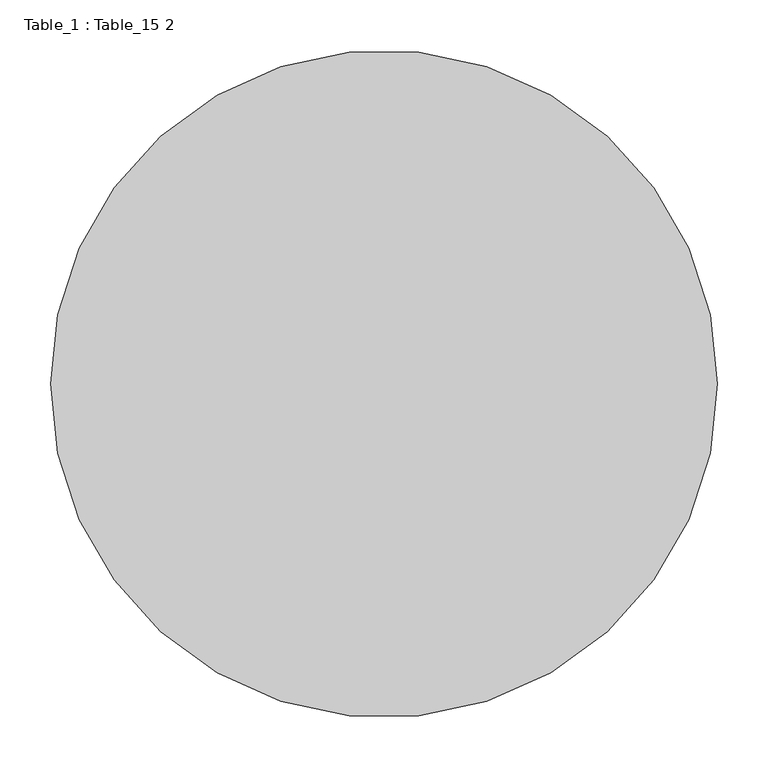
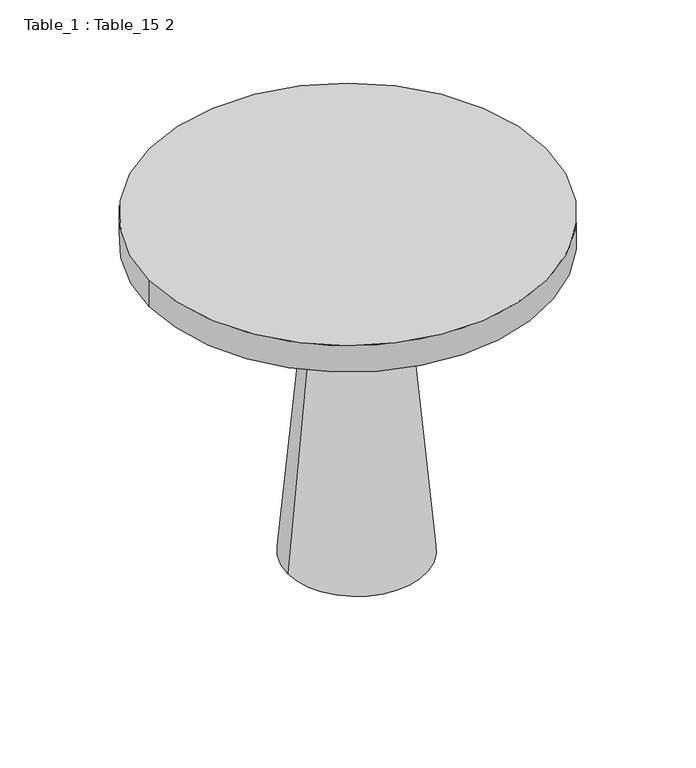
"""IFC4 building model written with IfcOpenShell, lengths in millimetres: furniture geometry, Table_1 : Table_15 2."""

from ifc_helpers import new_model, si_unit, point, frame, origin, origin_2d, place, context, project, spatial, polyline, circle_curve, trimmed, segment, composite_curve, outline, extrude, source, transform, mapped, element, save
from ifc_brep_helpers import plane_surface, revolved_surface, advanced_brep


def table_1_table_15_2_961d6f65(model_context):
    return source(origin(), model_context, "Body", "SolidModel", [
        advanced_brep(
        [(-100.3808299, 0.0, 0.0), (129.6191701, 0.0, 0.0), (-50.3808299, 0.0, 550.0), (79.6191701, 0.0, 550.0)],
        [
            (0, 1, circle_curve(frame((14.6191701, 0.0, 0.0), z_axis=(0.0, 0.0, -1.0), x_axis=(-1.0, 0.0, 0.0)), 115.0)),
            (1, 0, circle_curve(frame((14.6191701, 0.0, 0.0), z_axis=(0.0, 0.0, -1.0), x_axis=(1.0, 0.0, 0.0)), 115.0)),
            (2, 3, circle_curve(frame((14.6191701, 0.0, 550.0), z_axis=(0.0, 0.0, 1.0), x_axis=(1.0, 0.0, 0.0)), 65.0)),
            (3, 2, circle_curve(frame((14.6191701, 0.0, 550.0), z_axis=(0.0, 0.0, 1.0), x_axis=(-1.0, 0.0, 0.0)), 65.0)),
            (3, 1),
            (0, 2),
        ],
        [
            plane_surface(frame((14.6191701, 0.0, 0.0), z_axis=(0.0, 0.0, -1.0), x_axis=(0.0, 1.0, 0.0))),
            plane_surface(frame((14.6191701, 0.0, 550.0), z_axis=(0.0, 0.0, 1.0), x_axis=(0.0, 1.0, 0.0))),
            revolved_surface(polyline([(79.61917009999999, 0.0, 550.0), (129.6191701, 0.0, 0.0)]), (14.6191701, 0.0, 1265.0), (0.0, 0.0, -1.0)),
            revolved_surface(polyline([(-50.3808299, 0.0, 550.0), (-100.3808299, 0.0, 0.0)]), (14.6191701, 0.0, 1265.0), (0.0, 0.0, -1.0)),
        ],
        [
            (0, [[1, 2]]),
            (1, [[3, 4]]),
            (2, [[-4, 5, -1, 6]]),
            (3, [[-3, -6, -2, -5]]),
        ],
    ),
        extrude(outline(composite_curve([segment(trimmed(circle_curve(origin_2d(), 330.0), [point((-330.0, 0.0))], [point((330.0, 0.0))], False, "CARTESIAN"), True, "CONTINUOUS"), segment(trimmed(circle_curve(origin_2d(), 330.0), [point((330.0, 0.0))], [point((-330.0, 0.0))], False, "CARTESIAN"), True, "CONTINUOUS")], self_intersect=False)), frame((0.0, 0.0, 550.0), z_axis=(0.0, 0.0, 1.0), x_axis=(1.0, 0.0, 0.0)), (0.0, 0.0, 1.0), 46.4718459),
    ])


if __name__ == "__main__":
    model = new_model("IFC4")
    model_context = context("Model", 3, world=origin())
    ifc_project = project(units=[si_unit("LENGTHUNIT", "METRE", prefix="MILLI")], contexts=[model_context])
    site = spatial("IfcSite", under=ifc_project)
    building = spatial("IfcBuilding", under=site)
    placement = place(None, origin())
    table_1_table_15_2_shape = table_1_table_15_2_961d6f65(model_context)
    element("IfcFurniture", 1, ObjectType="Table_1 : Table_15 2", at=placement, inside=building, context=model_context, shape_type="MappedRepresentation", body=[
        mapped(table_1_table_15_2_shape, transform((0.0, 0.0, 0.0), x_axis=(1.0, 0.0, 0.0), y_axis=(0.0, 1.0, 0.0), z_axis=(0.0, 0.0, 1.0))),
    ])
    save(model, "model.ifc")
